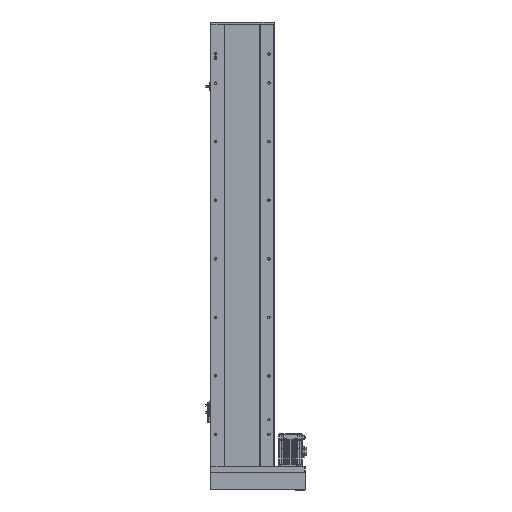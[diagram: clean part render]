
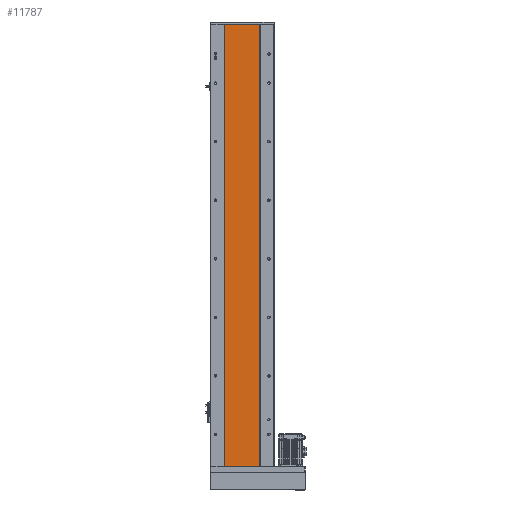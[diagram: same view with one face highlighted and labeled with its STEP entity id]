
A CAD part, front view. The second image highlights one B-rep face of the part: STEP entity #11787.
In plain terms, the highlighted planar face has unit normal (0, -1, 0).
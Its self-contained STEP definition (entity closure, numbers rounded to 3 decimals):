
#1803 = EDGE_LOOP ( 'NONE', ( #10956, #20311, #10217, #7649 ) ) ;
#3633 = DIRECTION ( 'NONE',  ( 0., 1., 0. ) ) ;
#5605 = VERTEX_POINT ( 'NONE', #43366 ) ;
#5620 = CARTESIAN_POINT ( 'NONE',  ( 432.408, 155.016, 1511. ) ) ;
#5821 = VECTOR ( 'NONE', #32801, 1000. ) ;
#7527 = EDGE_CURVE ( 'NONE', #37817, #16665, #18977, .T. ) ;
#7649 = ORIENTED_EDGE ( 'NONE', *, *, #29518, .T. ) ;
#7675 = EDGE_CURVE ( 'NONE', #43428, #37817, #26655, .T. ) ;
#8424 = CARTESIAN_POINT ( 'NONE',  ( 551.58, 155.016, 1511. ) ) ;
#10217 = ORIENTED_EDGE ( 'NONE', *, *, #7675, .F. ) ;
#10956 = ORIENTED_EDGE ( 'NONE', *, *, #37709, .T. ) ;
#11787 = ADVANCED_FACE ( 'NONE', ( #29549 ), #39558, .F. ) ;
#13098 = LINE ( 'NONE', #5620, #5821 ) ;
#13922 = VECTOR ( 'NONE', #39713, 1000. ) ;
#16665 = VERTEX_POINT ( 'NONE', #32459 ) ;
#16809 = LINE ( 'NONE', #38427, #25345 ) ;
#17213 = DIRECTION ( 'NONE',  ( 1., 0., 0. ) ) ;
#18977 = LINE ( 'NONE', #26226, #13922 ) ;
#20311 = ORIENTED_EDGE ( 'NONE', *, *, #7527, .F. ) ;
#25345 = VECTOR ( 'NONE', #31881, 1000. ) ;
#26226 = CARTESIAN_POINT ( 'NONE',  ( 551.58, 155.016, 1511. ) ) ;
#26655 = LINE ( 'NONE', #33828, #39797 ) ;
#29518 = EDGE_CURVE ( 'NONE', #43428, #5605, #13098, .T. ) ;
#29549 = FACE_OUTER_BOUND ( 'NONE', #1803, .T. ) ;
#29980 = DIRECTION ( 'NONE',  ( 0., 0., 1. ) ) ;
#30581 = CARTESIAN_POINT ( 'NONE',  ( 432.408, 155.016, 1511. ) ) ;
#31881 = DIRECTION ( 'NONE',  ( 1., 0., 0. ) ) ;
#32459 = CARTESIAN_POINT ( 'NONE',  ( 551.58, 155.016, 0. ) ) ;
#32801 = DIRECTION ( 'NONE',  ( 0., 0., -1. ) ) ;
#33666 = CARTESIAN_POINT ( 'NONE',  ( 0., 155.016, 1511. ) ) ;
#33828 = CARTESIAN_POINT ( 'NONE',  ( 0., 155.016, 1511. ) ) ;
#37709 = EDGE_CURVE ( 'NONE', #5605, #16665, #16809, .T. ) ;
#37817 = VERTEX_POINT ( 'NONE', #8424 ) ;
#38427 = CARTESIAN_POINT ( 'NONE',  ( 0., 155.016, 0. ) ) ;
#39558 = PLANE ( 'NONE',  #39624 ) ;
#39624 = AXIS2_PLACEMENT_3D ( 'NONE', #33666, #3633, #29980 ) ;
#39713 = DIRECTION ( 'NONE',  ( 0., 0., -1. ) ) ;
#39797 = VECTOR ( 'NONE', #17213, 1000. ) ;
#43366 = CARTESIAN_POINT ( 'NONE',  ( 432.408, 155.016, 0. ) ) ;
#43428 = VERTEX_POINT ( 'NONE', #30581 ) ;
